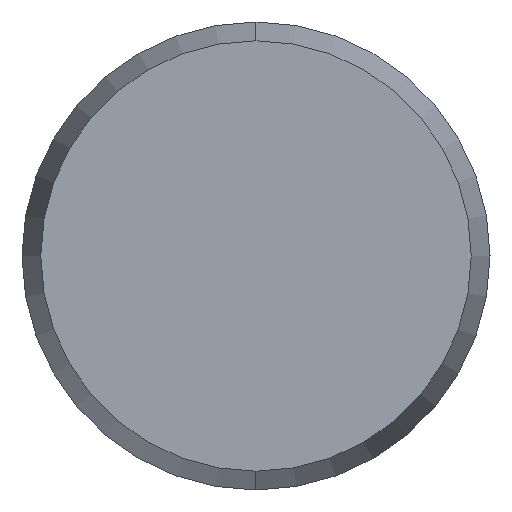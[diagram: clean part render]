
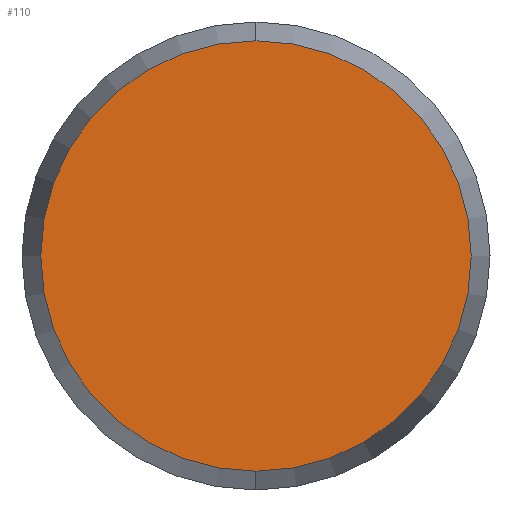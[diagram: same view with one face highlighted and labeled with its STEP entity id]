
A CAD part, left-side view. The second image highlights one B-rep face of the part: STEP entity #110.
In plain terms, the highlighted planar face has unit normal (-1, 0, 0).
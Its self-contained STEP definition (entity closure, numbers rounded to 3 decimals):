
#34 = EDGE_CURVE ( 'NONE', #35, #36, #73, .T. ) ;
#35 = VERTEX_POINT ( 'NONE', #69 ) ;
#36 = VERTEX_POINT ( 'NONE', #68 ) ;
#50 = DIRECTION ( 'NONE',  ( 0., 0., -1. ) ) ;
#51 = DIRECTION ( 'NONE',  ( 1., 0., 0. ) ) ;
#52 = CARTESIAN_POINT ( 'NONE',  ( -45., 0., 0. ) ) ;
#54 = AXIS2_PLACEMENT_3D ( 'NONE', #52, #51, #50 ) ;
#55 = PLANE ( 'NONE',  #54 ) ;
#56 = FACE_OUTER_BOUND ( 'NONE', #111, .T. ) ;
#57 = DIRECTION ( 'NONE',  ( 0., 0., -1. ) ) ;
#58 = DIRECTION ( 'NONE',  ( 1., 0., 0. ) ) ;
#59 = CARTESIAN_POINT ( 'NONE',  ( -45., 0., 0. ) ) ;
#60 = AXIS2_PLACEMENT_3D ( 'NONE', #59, #58, #57 ) ;
#61 = CIRCLE ( 'NONE', #60, 4.598 ) ;
#68 = CARTESIAN_POINT ( 'NONE',  ( -45., 0., -4.598 ) ) ;
#69 = CARTESIAN_POINT ( 'NONE',  ( -45., 0., 4.598 ) ) ;
#70 = DIRECTION ( 'NONE',  ( 0., 0., -1. ) ) ;
#71 = DIRECTION ( 'NONE',  ( 1., 0., 0. ) ) ;
#72 = AXIS2_PLACEMENT_3D ( 'NONE', #74, #71, #70 ) ;
#73 = CIRCLE ( 'NONE', #72, 4.598 ) ;
#74 = CARTESIAN_POINT ( 'NONE',  ( -45., 0., 0. ) ) ;
#107 = EDGE_CURVE ( 'NONE', #36, #35, #61, .T. ) ;
#110 = ADVANCED_FACE ( 'NONE', ( #56 ), #55, .F. ) ;
#111 = EDGE_LOOP ( 'NONE', ( #112, #113 ) ) ;
#112 = ORIENTED_EDGE ( 'NONE', *, *, #34, .F. ) ;
#113 = ORIENTED_EDGE ( 'NONE', *, *, #107, .F. ) ;
